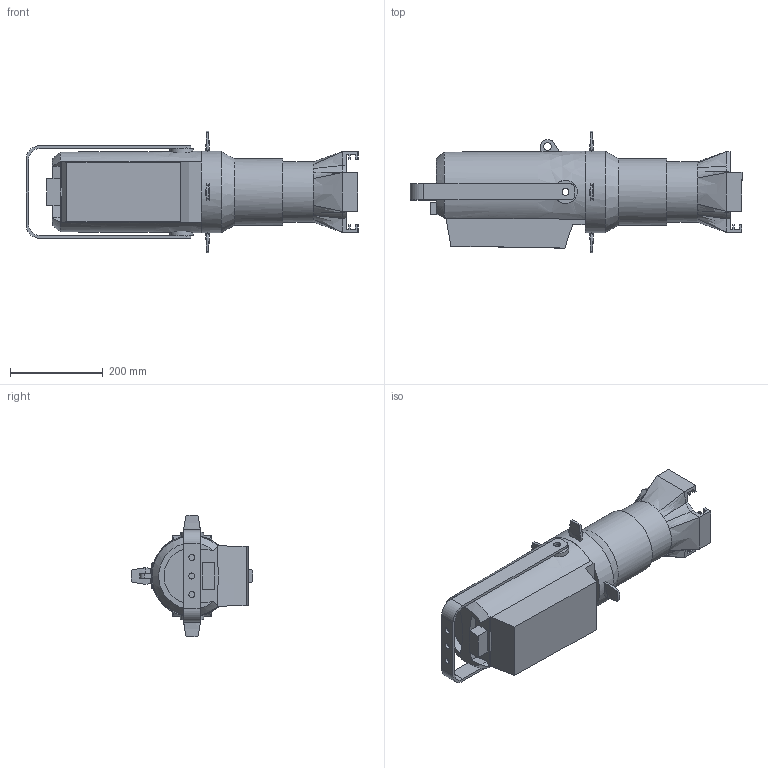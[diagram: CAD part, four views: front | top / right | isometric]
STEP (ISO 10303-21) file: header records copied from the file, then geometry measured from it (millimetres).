
FILE_DESCRIPTION(/* description */ (''),/* implementation_level */ '2;1');
FILE_NAME(/* name */ 'D:/dgooch/Documents/CADENG/PRO/Ovation E-260CW/0/3D/OVATIONE260CW_0.step',/* time_stamp */ '2020-03-09T12:14:01-04:00',/* author */ (''),/* organization */ (''),/* preprocessor_version */ 'ST-DEVELOPER v18',/* originating_system */ 'Autodesk Translation Framework v8.12.0.6',/* authorisation */ '');
FILE_SCHEMA (('AUTOMOTIVE_DESIGN { 1 0 10303 214 3 1 1 }'));
Length unit declared in the file: millimetre
Products named in the file (3): OVATIONE260CW (v4~recovered); Bracket; Main
Assembly tree (2 placements, depth 2):
  OVATIONE260CW (v4~recovered)
    Bracket
    Main
Bounding box: 714.89 x 262.15 x 262.15 mm (x, y, z)
Volume: 14324116.5 mm3; surface area: 541291.2 mm2
Topology: 2 solids, 2 shells, 202 faces, 537 edges, 353 vertices
Faces by surface type: plane 118, cylinder 32, bspline 28, cone 24
Full cylindrical faces by diameter (mm): 13 x3, 14.5 x3, 17 x1, 50 x2, 129.499 x1, 143 x1, 175 x1
Entity records: 28780 total; most frequent: CARTESIAN_POINT 23675, ORIENTED_EDGE 1090, DIRECTION 983, EDGE_CURVE 545, VERTEX_POINT 369, AXIS2_PLACEMENT_3D 351, LINE 281, VECTOR 281
